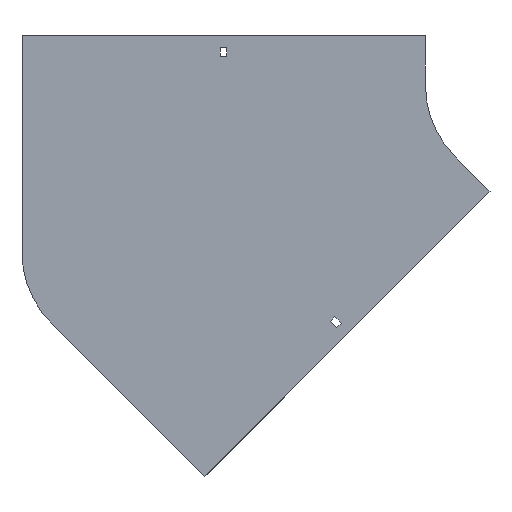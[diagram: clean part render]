
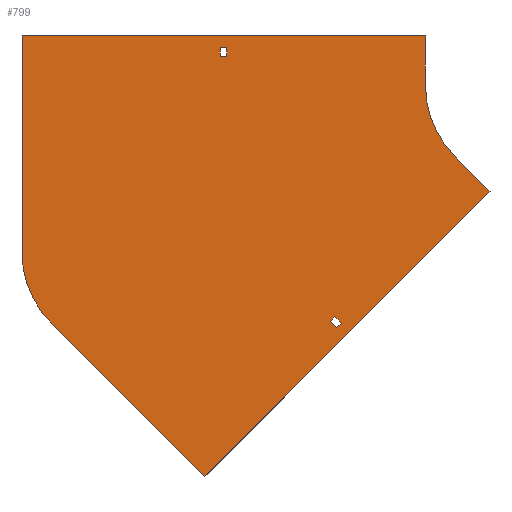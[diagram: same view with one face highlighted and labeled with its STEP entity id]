
A CAD part, front view. The second image highlights one B-rep face of the part: STEP entity #799.
In plain terms, the highlighted planar face has unit normal (0, -1, 0).
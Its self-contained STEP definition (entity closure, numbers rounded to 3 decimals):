
#17 = VERTEX_POINT ( 'NONE', #749 ) ;
#34 = VERTEX_POINT ( 'NONE', #1820 ) ;
#38 = CARTESIAN_POINT ( 'NONE',  ( -190.742, 0., -231.754 ) ) ;
#58 = LINE ( 'NONE', #1096, #1094 ) ;
#60 = LINE ( 'NONE', #38, #1142 ) ;
#72 = CARTESIAN_POINT ( 'NONE',  ( -504., 0., 50. ) ) ;
#74 = DIRECTION ( 'NONE',  ( 0., 0., -1. ) ) ;
#112 = EDGE_CURVE ( 'NONE', #1612, #520, #718, .T. ) ;
#116 = CARTESIAN_POINT ( 'NONE',  ( -404., 0., -167.342 ) ) ;
#166 = ORIENTED_EDGE ( 'NONE', *, *, #862, .F. ) ;
#175 = LINE ( 'NONE', #1351, #1493 ) ;
#203 = CARTESIAN_POINT ( 'NONE',  ( -305.25, 0., 38. ) ) ;
#243 = VECTOR ( 'NONE', #907, 1000. ) ;
#249 = EDGE_LOOP ( 'NONE', ( #359, #317, #1430, #576 ) ) ;
#283 = VECTOR ( 'NONE', #1819, 1000. ) ;
#294 = CARTESIAN_POINT ( 'NONE',  ( -195.338, 0., -236.35 ) ) ;
#296 = DIRECTION ( 'NONE',  ( 0., -1., 0. ) ) ;
#304 = LINE ( 'NONE', #760, #283 ) ;
#307 = VECTOR ( 'NONE', #976, 1000. ) ;
#317 = ORIENTED_EDGE ( 'NONE', *, *, #1418, .F. ) ;
#359 = ORIENTED_EDGE ( 'NONE', *, *, #392, .F. ) ;
#362 = DIRECTION ( 'NONE',  ( -1., 0., 0. ) ) ;
#375 = VECTOR ( 'NONE', #1407, 1000. ) ;
#392 = EDGE_CURVE ( 'NONE', #17, #1425, #532, .T. ) ;
#395 = EDGE_CURVE ( 'NONE', #1395, #34, #496, .T. ) ;
#414 = EDGE_LOOP ( 'NONE', ( #992, #1031, #1909, #1308 ) ) ;
#428 = EDGE_CURVE ( 'NONE', #1467, #1018, #1109, .T. ) ;
#434 = CARTESIAN_POINT ( 'NONE',  ( -474.711, 0., -238.053 ) ) ;
#442 = ORIENTED_EDGE ( 'NONE', *, *, #112, .F. ) ;
#455 = CARTESIAN_POINT ( 'NONE',  ( -504., 0., -167.342 ) ) ;
#458 = ORIENTED_EDGE ( 'NONE', *, *, #766, .F. ) ;
#467 = EDGE_LOOP ( 'NONE', ( #166, #470, #1153, #458, #1597, #1659, #1527, #442 ) ) ;
#469 = CARTESIAN_POINT ( 'NONE',  ( -195.338, 0., -236.35 ) ) ;
#470 = ORIENTED_EDGE ( 'NONE', *, *, #428, .F. ) ;
#489 = DIRECTION ( 'NONE',  ( 0., 0., -1. ) ) ;
#496 = LINE ( 'NONE', #203, #307 ) ;
#502 = VECTOR ( 'NONE', #1060, 1000. ) ;
#504 = CARTESIAN_POINT ( 'NONE',  ( -188.974, 0., -242.714 ) ) ;
#520 = VERTEX_POINT ( 'NONE', #1436 ) ;
#532 = LINE ( 'NONE', #504, #993 ) ;
#576 = ORIENTED_EDGE ( 'NONE', *, *, #944, .F. ) ;
#586 = CARTESIAN_POINT ( 'NONE',  ( -190.742, 0., -231.754 ) ) ;
#620 = LINE ( 'NONE', #1858, #243 ) ;
#652 = VECTOR ( 'NONE', #1713, 1000. ) ;
#668 = LINE ( 'NONE', #1576, #652 ) ;
#698 = DIRECTION ( 'NONE',  ( 0., 1., 0. ) ) ;
#718 = LINE ( 'NONE', #1331, #1611 ) ;
#739 = FACE_BOUND ( 'NONE', #249, .T. ) ;
#749 = CARTESIAN_POINT ( 'NONE',  ( -188.974, 0., -242.714 ) ) ;
#760 = CARTESIAN_POINT ( 'NONE',  ( -70.711, 0., -70.711 ) ) ;
#766 = EDGE_CURVE ( 'NONE', #1080, #1454, #175, .T. ) ;
#767 = CARTESIAN_POINT ( 'NONE',  ( -184.378, 0., -238.118 ) ) ;
#773 = FACE_OUTER_BOUND ( 'NONE', #467, .T. ) ;
#778 = CARTESIAN_POINT ( 'NONE',  ( 0., 0., 0. ) ) ;
#783 = CIRCLE ( 'NONE', #1225, 100. ) ;
#788 = EDGE_CURVE ( 'NONE', #1829, #1233, #620, .T. ) ;
#799 = ADVANCED_FACE ( 'NONE', ( #1057, #773, #739 ), #1372, .T. ) ;
#811 = LINE ( 'NONE', #72, #1374 ) ;
#851 = EDGE_CURVE ( 'NONE', #34, #1616, #668, .T. ) ;
#862 = EDGE_CURVE ( 'NONE', #1018, #1612, #811, .T. ) ;
#907 = DIRECTION ( 'NONE',  ( -0.707, 0., -0.707 ) ) ;
#941 = VERTEX_POINT ( 'NONE', #946 ) ;
#944 = EDGE_CURVE ( 'NONE', #1425, #1829, #60, .T. ) ;
#946 = CARTESIAN_POINT ( 'NONE',  ( -35.355, 0., -106.066 ) ) ;
#951 = CARTESIAN_POINT ( 'NONE',  ( -298.75, 0., 29. ) ) ;
#976 = DIRECTION ( 'NONE',  ( 1., 0., 0. ) ) ;
#992 = ORIENTED_EDGE ( 'NONE', *, *, #1674, .T. ) ;
#993 = VECTOR ( 'NONE', #1548, 1000. ) ;
#1018 = VERTEX_POINT ( 'NONE', #1378 ) ;
#1031 = ORIENTED_EDGE ( 'NONE', *, *, #395, .T. ) ;
#1057 = FACE_BOUND ( 'NONE', #414, .T. ) ;
#1060 = DIRECTION ( 'NONE',  ( 0.707, 0., -0.707 ) ) ;
#1062 = VECTOR ( 'NONE', #1584, 1000. ) ;
#1076 = DIRECTION ( 'NONE',  ( -0.707, 0., 0.707 ) ) ;
#1080 = VERTEX_POINT ( 'NONE', #1930 ) ;
#1094 = VECTOR ( 'NONE', #362, 1000. ) ;
#1096 = CARTESIAN_POINT ( 'NONE',  ( -305.25, 0., 29. ) ) ;
#1100 = DIRECTION ( 'NONE',  ( -0.707, 0., 0.707 ) ) ;
#1109 = LINE ( 'NONE', #1255, #375 ) ;
#1135 = EDGE_CURVE ( 'NONE', #941, #1080, #1152, .T. ) ;
#1142 = VECTOR ( 'NONE', #1100, 1000. ) ;
#1152 = LINE ( 'NONE', #1442, #1622 ) ;
#1153 = ORIENTED_EDGE ( 'NONE', *, *, #1708, .F. ) ;
#1163 = LINE ( 'NONE', #1316, #1062 ) ;
#1187 = LINE ( 'NONE', #469, #502 ) ;
#1202 = VERTEX_POINT ( 'NONE', #1504 ) ;
#1225 = AXIS2_PLACEMENT_3D ( 'NONE', #116, #698, #1294 ) ;
#1233 = VERTEX_POINT ( 'NONE', #294 ) ;
#1238 = EDGE_CURVE ( 'NONE', #1536, #941, #304, .T. ) ;
#1255 = CARTESIAN_POINT ( 'NONE',  ( -504., 0., -167.342 ) ) ;
#1294 = DIRECTION ( 'NONE',  ( 0., 0., 1. ) ) ;
#1308 = ORIENTED_EDGE ( 'NONE', *, *, #1613, .T. ) ;
#1309 = DIRECTION ( 'NONE',  ( -0.707, 0., -0.707 ) ) ;
#1316 = CARTESIAN_POINT ( 'NONE',  ( -305.25, 0., 29. ) ) ;
#1331 = CARTESIAN_POINT ( 'NONE',  ( -100., 0., 50. ) ) ;
#1351 = CARTESIAN_POINT ( 'NONE',  ( -321.026, 0., -391.737 ) ) ;
#1355 = CARTESIAN_POINT ( 'NONE',  ( -305.25, 0., 38. ) ) ;
#1372 = PLANE ( 'NONE',  #1822 ) ;
#1374 = VECTOR ( 'NONE', #1423, 1000. ) ;
#1378 = CARTESIAN_POINT ( 'NONE',  ( -504., 0., 50. ) ) ;
#1383 = CARTESIAN_POINT ( 'NONE',  ( 0., 0., 0. ) ) ;
#1393 = CARTESIAN_POINT ( 'NONE',  ( -100., 0., 50. ) ) ;
#1395 = VERTEX_POINT ( 'NONE', #1355 ) ;
#1407 = DIRECTION ( 'NONE',  ( 0., 0., 1. ) ) ;
#1418 = EDGE_CURVE ( 'NONE', #1233, #17, #1187, .T. ) ;
#1423 = DIRECTION ( 'NONE',  ( 1., 0., 0. ) ) ;
#1425 = VERTEX_POINT ( 'NONE', #767 ) ;
#1430 = ORIENTED_EDGE ( 'NONE', *, *, #788, .F. ) ;
#1436 = CARTESIAN_POINT ( 'NONE',  ( -100., 0., 0. ) ) ;
#1442 = CARTESIAN_POINT ( 'NONE',  ( -35.355, 0., -106.066 ) ) ;
#1454 = VERTEX_POINT ( 'NONE', #434 ) ;
#1467 = VERTEX_POINT ( 'NONE', #455 ) ;
#1493 = VECTOR ( 'NONE', #1076, 1000. ) ;
#1504 = CARTESIAN_POINT ( 'NONE',  ( -305.25, 0., 29. ) ) ;
#1527 = ORIENTED_EDGE ( 'NONE', *, *, #1564, .F. ) ;
#1536 = VERTEX_POINT ( 'NONE', #1686 ) ;
#1537 = AXIS2_PLACEMENT_3D ( 'NONE', #778, #1848, #489 ) ;
#1548 = DIRECTION ( 'NONE',  ( 0.707, 0., 0.707 ) ) ;
#1564 = EDGE_CURVE ( 'NONE', #520, #1536, #1627, .T. ) ;
#1576 = CARTESIAN_POINT ( 'NONE',  ( -298.75, 0., 29. ) ) ;
#1584 = DIRECTION ( 'NONE',  ( 0., 0., 1. ) ) ;
#1597 = ORIENTED_EDGE ( 'NONE', *, *, #1135, .F. ) ;
#1611 = VECTOR ( 'NONE', #74, 1000. ) ;
#1612 = VERTEX_POINT ( 'NONE', #1393 ) ;
#1613 = EDGE_CURVE ( 'NONE', #1616, #1202, #58, .T. ) ;
#1616 = VERTEX_POINT ( 'NONE', #951 ) ;
#1622 = VECTOR ( 'NONE', #1309, 1000. ) ;
#1627 = CIRCLE ( 'NONE', #1537, 100. ) ;
#1659 = ORIENTED_EDGE ( 'NONE', *, *, #1238, .F. ) ;
#1674 = EDGE_CURVE ( 'NONE', #1202, #1395, #1163, .T. ) ;
#1686 = CARTESIAN_POINT ( 'NONE',  ( -70.711, 0., -70.711 ) ) ;
#1708 = EDGE_CURVE ( 'NONE', #1454, #1467, #783, .T. ) ;
#1713 = DIRECTION ( 'NONE',  ( 0., 0., -1. ) ) ;
#1810 = DIRECTION ( 'NONE',  ( 0., 0., -1. ) ) ;
#1819 = DIRECTION ( 'NONE',  ( 0.707, 0., -0.707 ) ) ;
#1820 = CARTESIAN_POINT ( 'NONE',  ( -298.75, 0., 38. ) ) ;
#1822 = AXIS2_PLACEMENT_3D ( 'NONE', #1383, #296, #1810 ) ;
#1829 = VERTEX_POINT ( 'NONE', #586 ) ;
#1848 = DIRECTION ( 'NONE',  ( 0., -1., 0. ) ) ;
#1858 = CARTESIAN_POINT ( 'NONE',  ( -195.338, 0., -236.35 ) ) ;
#1909 = ORIENTED_EDGE ( 'NONE', *, *, #851, .T. ) ;
#1930 = CARTESIAN_POINT ( 'NONE',  ( -321.026, 0., -391.737 ) ) ;
